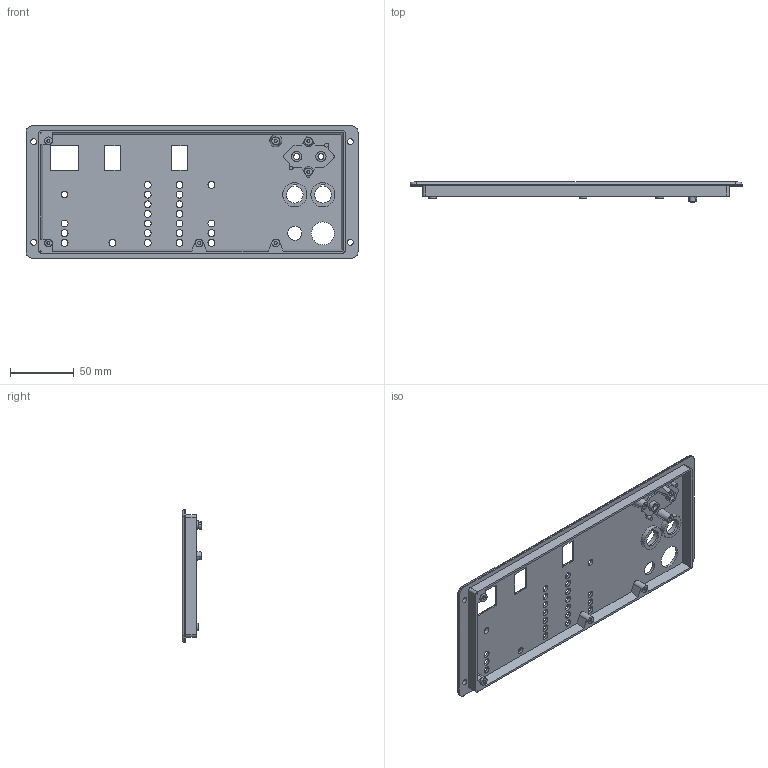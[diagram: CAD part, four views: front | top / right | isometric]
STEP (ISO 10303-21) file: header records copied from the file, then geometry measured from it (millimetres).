
FILE_DESCRIPTION(/* description */ ('Bedien-Panel'),/* implementation_level */ '2;1');
FILE_NAME(/* name */ 'P:\3D-Druck\Sven Hedin\Anzeige-Panel\Bedienpanel.stp',/* time_stamp */ '2024-09-27T15:49:04+02:00',/* author */ ('fk'),/* organization */ (''),/* preprocessor_version */ 'ST-DEVELOPER v18.1',/* originating_system */ 'Autodesk Inventor 2022',/* authorisation */ '');
FILE_SCHEMA (('AUTOMOTIVE_DESIGN { 1 0 10303 214 3 1 1 }'));
Length unit declared in the file: millimetre
Products named in the file (1): Panel
Bounding box: 260 x 15.6 x 103.8 mm (x, y, z)
Volume: 87569.3 mm3; surface area: 66674.4 mm2
Topology: 1 solids, 1 shells, 967 faces, 2553 edges, 1696 vertices
Faces by surface type: plane 668, cylinder 212, bspline 78, cone 5, torus 4
Full cylindrical faces by diameter (mm): 1.9 x1, 2.4 x14, 3 x2, 4.5 x4, 4.7 x2, 5 x1, 5.4 x22, 6 x4, 8 x2, 8.1 x2, 11 x1, 15.9 x2, 18 x1, 18.9 x2
Entity records: 31649 total; most frequent: CARTESIAN_POINT 7497, ORIENTED_EDGE 5110, DIRECTION 4625, EDGE_CURVE 2555, LINE 1937, VECTOR 1937, VERTEX_POINT 1698, AXIS2_PLACEMENT_3D 1344
